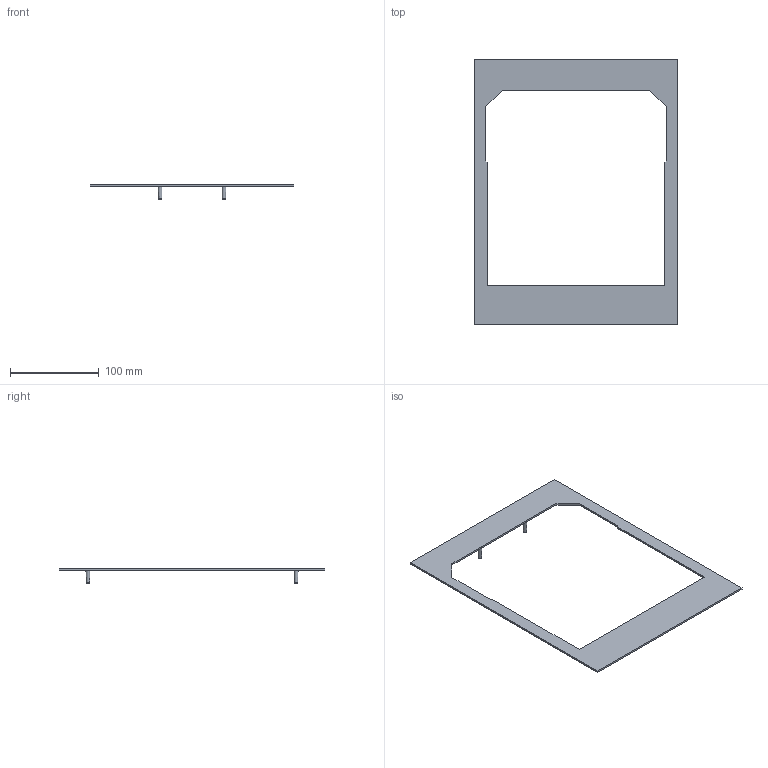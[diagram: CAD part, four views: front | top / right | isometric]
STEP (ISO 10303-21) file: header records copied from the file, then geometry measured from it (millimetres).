
FILE_DESCRIPTION(/* description */ (''),/* implementation_level */ '2;1');
FILE_NAME(/* name */ '1000863',/* time_stamp */ '2014-06-16T14:06:26+02:00',/* author */ (''),/* organization */ (''),/* preprocessor_version */ 'ST-DEVELOPER v9',/* originating_system */ 'UGS - NX 4.0',/* authorisation */ '');
FILE_SCHEMA (('CONFIG_CONTROL_DESIGN'));
Length unit declared in the file: millimetre
Products named in the file (1): MTroCFD28y2s
Bounding box: 230 x 300 x 17 mm (x, y, z)
Volume: 50874.6 mm3; surface area: 54596.7 mm2
Topology: 1 solids, 1 shells, 64 faces, 161 edges, 106 vertices
Faces by surface type: plane 50, cylinder 6, cone 4, bspline 4
Entity records: 2039 total; most frequent: CARTESIAN_POINT 432, ORIENTED_EDGE 306, DIRECTION 299, EDGE_CURVE 153, LINE 129, VECTOR 129, VERTEX_POINT 106, AXIS2_PLACEMENT_3D 85
